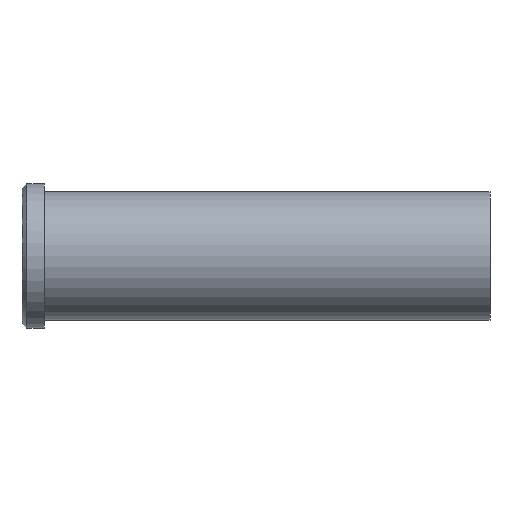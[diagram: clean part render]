
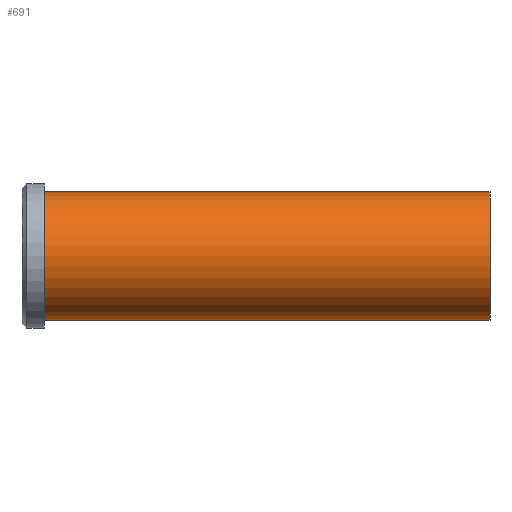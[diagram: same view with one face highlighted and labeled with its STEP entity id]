
A CAD part, front view. The second image highlights one B-rep face of the part: STEP entity #691.
In plain terms, the highlighted cylindrical face has radius 20 mm (diameter 40 mm), a partial arc.
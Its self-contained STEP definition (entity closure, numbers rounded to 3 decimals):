
#501=CARTESIAN_POINT('Vertex',(0.,0.,-20.)) ;
#506=CARTESIAN_POINT('Axis2P3D Location',(0.,0.,0.)) ;
#510=CARTESIAN_POINT('Vertex',(0.,-20.,0.)) ;
#513=CARTESIAN_POINT('Axis2P3D Location',(0.,0.,0.)) ;
#517=CARTESIAN_POINT('Vertex',(0.,0.,20.)) ;
#631=CARTESIAN_POINT('Line Origine',(139.,0.,20.)) ;
#635=CARTESIAN_POINT('Vertex',(139.,0.,20.)) ;
#649=CARTESIAN_POINT('Vertex',(139.,0.,-20.)) ;
#652=CARTESIAN_POINT('Line Origine',(139.,0.,-20.)) ;
#666=CARTESIAN_POINT('Axis2P3D Location',(139.,0.,0.)) ;
#671=CARTESIAN_POINT('Axis2P3D Location',(139.,0.,0.)) ;
#675=CARTESIAN_POINT('Vertex',(139.,-20.,0.)) ;
#678=CARTESIAN_POINT('Axis2P3D Location',(139.,0.,0.)) ;
#507=DIRECTION('Axis2P3D Direction',(1.,0.,-0.)) ;
#514=DIRECTION('Axis2P3D Direction',(1.,0.,-0.)) ;
#632=DIRECTION('Vector Direction',(-1.,0.,0.)) ;
#653=DIRECTION('Vector Direction',(-1.,0.,0.)) ;
#667=DIRECTION('Axis2P3D Direction',(-1.,-0.,-0.)) ;
#668=DIRECTION('Axis2P3D XDirection',(0.,0.,-1.)) ;
#672=DIRECTION('Axis2P3D Direction',(-1.,-0.,-0.)) ;
#679=DIRECTION('Axis2P3D Direction',(-1.,-0.,-0.)) ;
#508=AXIS2_PLACEMENT_3D('Circle Axis2P3D',#506,#507,$) ;
#515=AXIS2_PLACEMENT_3D('Circle Axis2P3D',#513,#514,$) ;
#669=AXIS2_PLACEMENT_3D('Cylinder Axis2P3D',#666,#667,#668) ;
#673=AXIS2_PLACEMENT_3D('Circle Axis2P3D',#671,#672,$) ;
#680=AXIS2_PLACEMENT_3D('Circle Axis2P3D',#678,#679,$) ;
#684=ORIENTED_EDGE('',*,*,#656,.T.) ;
#685=ORIENTED_EDGE('',*,*,#677,.F.) ;
#686=ORIENTED_EDGE('',*,*,#682,.F.) ;
#687=ORIENTED_EDGE('',*,*,#637,.T.) ;
#688=ORIENTED_EDGE('',*,*,#519,.T.) ;
#689=ORIENTED_EDGE('',*,*,#512,.T.) ;
#633=VECTOR('Line Direction',#632,1.) ;
#654=VECTOR('Line Direction',#653,1.) ;
#691=ADVANCED_FACE('353-32X146',(#690),#670,.T.) ;
#509=CIRCLE('generated circle',#508,20.) ;
#516=CIRCLE('generated circle',#515,20.) ;
#674=CIRCLE('generated circle',#673,20.) ;
#681=CIRCLE('generated circle',#680,20.) ;
#670=CYLINDRICAL_SURFACE('generated cylinder',#669,20.) ;
#512=EDGE_CURVE('',#511,#502,#509,.T.) ;
#519=EDGE_CURVE('',#518,#511,#516,.T.) ;
#637=EDGE_CURVE('',#636,#518,#634,.T.) ;
#656=EDGE_CURVE('',#502,#650,#655,.F.) ;
#677=EDGE_CURVE('',#676,#650,#674,.F.) ;
#682=EDGE_CURVE('',#636,#676,#681,.F.) ;
#683=EDGE_LOOP('',(#684,#685,#686,#687,#688,#689)) ;
#690=FACE_OUTER_BOUND('',#683,.T.) ;
#634=LINE('Line',#631,#633) ;
#655=LINE('Line',#652,#654) ;
#502=VERTEX_POINT('',#501) ;
#511=VERTEX_POINT('',#510) ;
#518=VERTEX_POINT('',#517) ;
#636=VERTEX_POINT('',#635) ;
#650=VERTEX_POINT('',#649) ;
#676=VERTEX_POINT('',#675) ;
